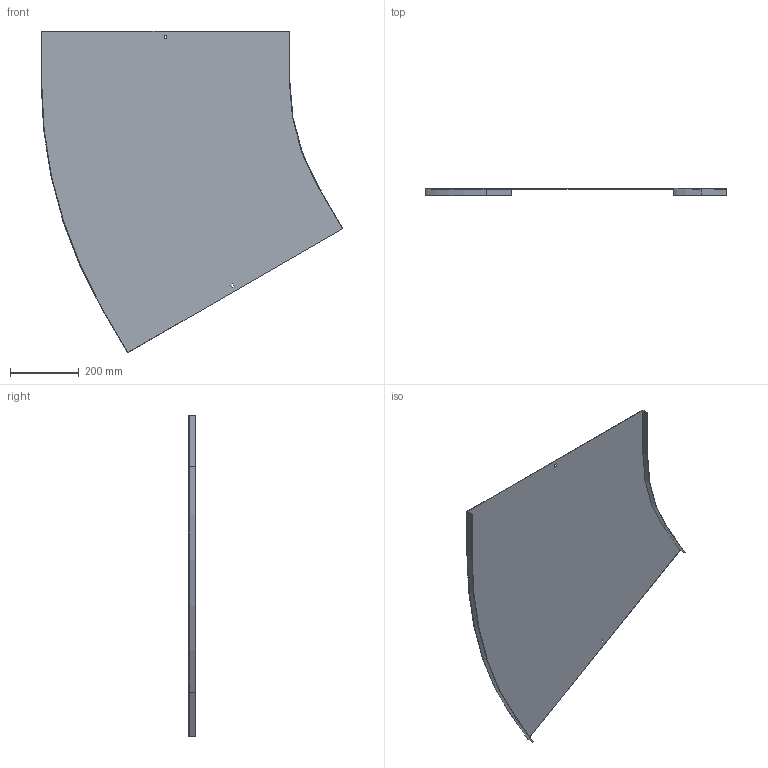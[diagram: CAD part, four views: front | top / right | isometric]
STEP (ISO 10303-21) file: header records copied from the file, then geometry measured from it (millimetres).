
FILE_DESCRIPTION (( 'STEP AP214' ), '1' );
FILE_NAME ('12N6P700.step', '2025-02-21T13:34:38', ( '' ), ( '' ), 'SwSTEP 2.0', 'SolidWorks 2023', '' );
FILE_SCHEMA (( 'AUTOMOTIVE_DESIGN' ));
Length unit declared in the file: millimetre
Products named in the file (1): 12N6P700
Bounding box: 876.84 x 20 x 935.65 mm (x, y, z)
Volume: 908882 mm3; surface area: 1216607.9 mm2
Topology: 1 solids, 1 shells, 26 faces, 72 edges, 48 vertices
Faces by surface type: plane 22, cylinder 4
Entity records: 855 total; most frequent: CARTESIAN_POINT 147, ORIENTED_EDGE 144, DIRECTION 134, EDGE_CURVE 72, LINE 64, VECTOR 64, VERTEX_POINT 48, AXIS2_PLACEMENT_3D 35
